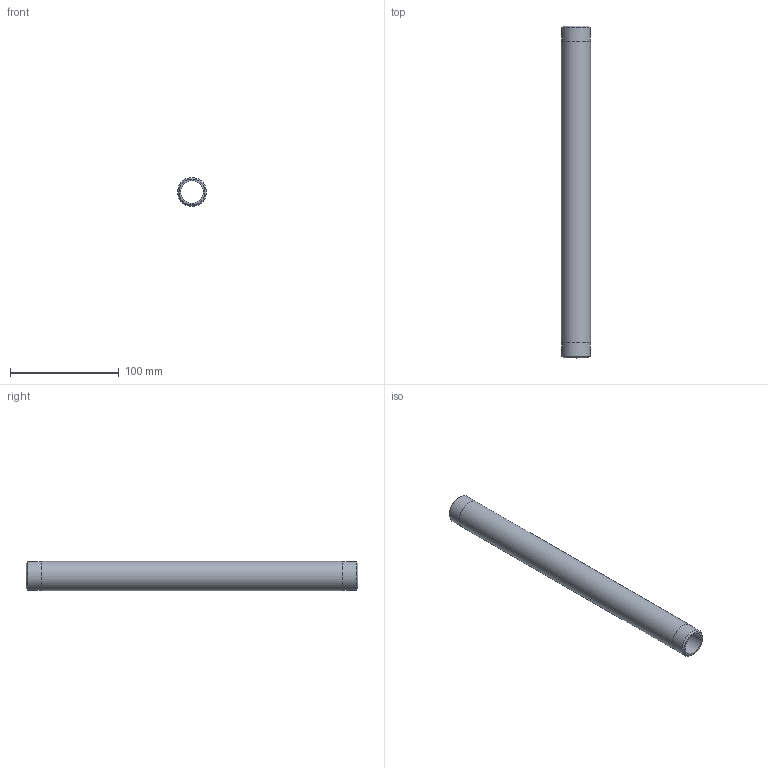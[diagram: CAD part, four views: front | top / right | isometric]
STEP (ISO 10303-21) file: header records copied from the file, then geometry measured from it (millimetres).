
FILE_DESCRIPTION(/* description */ (''),/* implementation_level */ '2;1');
FILE_NAME(/* name */ 'C:/Users/drich/Desktop/SSPN34-12 v1.step',/* time_stamp */ '2020-01-04T13:44:28-06:00',/* author */ (''),/* organization */ (''),/* preprocessor_version */ 'ST-DEVELOPER v18',/* originating_system */ 'Autodesk Translation Framework v8.12.0.6',/* authorisation */ '');
FILE_SCHEMA (('AUTOMOTIVE_DESIGN { 1 0 10303 214 3 1 1 }'));
Length unit declared in the file: inch
Products named in the file (1): SSPN34-12
Bounding box: 26.67 x 304.8 x 26.67 mm (x, y, z)
Volume: 65194.6 mm3; surface area: 45862.2 mm2
Topology: 1 solids, 1 shells, 10 faces, 24 edges, 18 vertices
Faces by surface type: cylinder 4, plane 4, cone 2
Full cylindrical faces by diameter (mm): 20.93 x1, 26.619 x2, 26.67 x1
Entity records: 353 total; most frequent: DIRECTION 64, CARTESIAN_POINT 53, ORIENTED_EDGE 48, AXIS2_PLACEMENT_3D 29, EDGE_CURVE 24, CIRCLE 18, VERTEX_POINT 18, EDGE_LOOP 14
